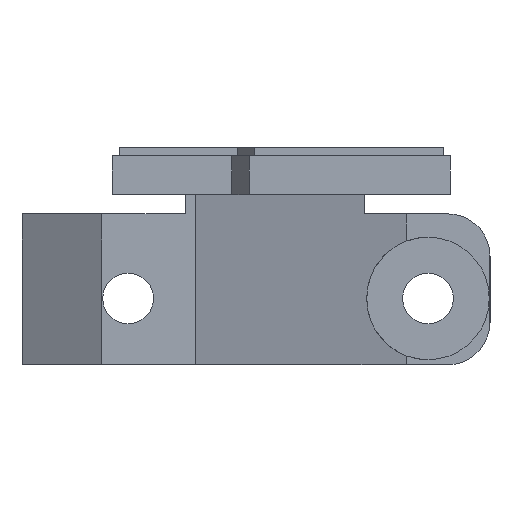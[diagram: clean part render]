
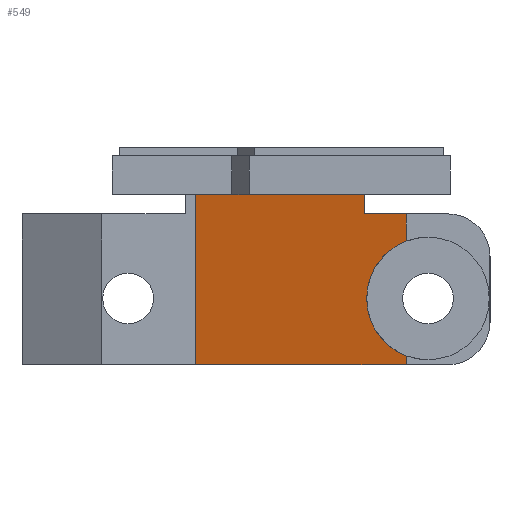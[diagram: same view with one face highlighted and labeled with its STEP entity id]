
A CAD part, left-side view. The second image highlights one B-rep face of the part: STEP entity #549.
In plain terms, the highlighted planar face has unit normal (-0.962, 0.274, 0).
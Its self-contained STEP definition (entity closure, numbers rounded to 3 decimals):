
#7 = VERTEX_POINT ( 'NONE', #1673 ) ;
#152 = VERTEX_POINT ( 'NONE', #3104 ) ;
#153 = EDGE_CURVE ( 'NONE', #7, #152, #3106, .T. ) ;
#414 = VERTEX_POINT ( 'NONE', #3665 ) ;
#431 = VERTEX_POINT ( 'NONE', #3571 ) ;
#471 = EDGE_CURVE ( 'NONE', #431, #414, #3687, .T. ) ;
#499 = EDGE_CURVE ( 'NONE', #632, #630, #3816, .T. ) ;
#510 = ORIENTED_EDGE ( 'NONE', *, *, #581, .F. ) ;
#538 = ORIENTED_EDGE ( 'NONE', *, *, #657, .T. ) ;
#549 = ADVANCED_FACE ( 'NONE', ( #3768 ), #3769, .T. ) ;
#550 = EDGE_LOOP ( 'NONE', ( #625, #629, #628, #626, #510, #631, #538, #665 ) ) ;
#578 = EDGE_CURVE ( 'NONE', #431, #7, #3794, .T. ) ;
#580 = VERTEX_POINT ( 'NONE', #3884 ) ;
#581 = EDGE_CURVE ( 'NONE', #630, #414, #3787, .T. ) ;
#625 = ORIENTED_EDGE ( 'NONE', *, *, #627, .F. ) ;
#626 = ORIENTED_EDGE ( 'NONE', *, *, #471, .T. ) ;
#627 = EDGE_CURVE ( 'NONE', #152, #580, #3998, .T. ) ;
#628 = ORIENTED_EDGE ( 'NONE', *, *, #578, .F. ) ;
#629 = ORIENTED_EDGE ( 'NONE', *, *, #153, .F. ) ;
#630 = VERTEX_POINT ( 'NONE', #3966 ) ;
#631 = ORIENTED_EDGE ( 'NONE', *, *, #499, .F. ) ;
#632 = VERTEX_POINT ( 'NONE', #3921 ) ;
#633 = VERTEX_POINT ( 'NONE', #3977 ) ;
#657 = EDGE_CURVE ( 'NONE', #632, #633, #3923, .T. ) ;
#665 = ORIENTED_EDGE ( 'NONE', *, *, #688, .F. ) ;
#688 = EDGE_CURVE ( 'NONE', #580, #633, #4082, .T. ) ;
#1673 = CARTESIAN_POINT ( 'NONE',  ( 256.45, 186.938, -38.861 ) ) ;
#3045 = CARTESIAN_POINT ( 'NONE',  ( 258.545, 194.3, -41.687 ) ) ;
#3060 = CARTESIAN_POINT ( 'NONE',  ( 256.45, 186.938, -38.861 ) ) ;
#3071 = CARTESIAN_POINT ( 'NONE',  ( 256.45, 186.938, -52.398 ) ) ;
#3083 = CARTESIAN_POINT ( 'NONE',  ( 258.545, 194.3, -49.572 ) ) ;
#3104 = CARTESIAN_POINT ( 'NONE',  ( 256.45, 186.938, -52.398 ) ) ;
#3106 =( BOUNDED_CURVE ( )  B_SPLINE_CURVE ( 3, ( #3060, #3045, #3083, #3071 ),
 .UNSPECIFIED., .F., .T. ) 
 B_SPLINE_CURVE_WITH_KNOTS ( ( 4, 4 ),
 ( 5.079, 7.487 ),
 .UNSPECIFIED. ) 
 CURVE ( )  GEOMETRIC_REPRESENTATION_ITEM ( )  RATIONAL_B_SPLINE_CURVE ( ( 1., 0.572, 0.572, 1. ) ) 
 REPRESENTATION_ITEM ( '' )  );
#3571 = CARTESIAN_POINT ( 'NONE',  ( 256.45, 186.938, -35.615 ) ) ;
#3665 = CARTESIAN_POINT ( 'NONE',  ( 257.842, 191.83, -35.615 ) ) ;
#3686 = CARTESIAN_POINT ( 'NONE',  ( 256.45, 186.938, -35.615 ) ) ;
#3687 = LINE ( 'NONE', #3686, #3720 ) ;
#3719 = DIRECTION ( 'NONE',  ( 0.274, 0.962, 0. ) ) ;
#3720 = VECTOR ( 'NONE', #3719, 1000. ) ;
#3749 = DIRECTION ( 'NONE',  ( -0.274, -0.962, 0. ) ) ;
#3750 = DIRECTION ( 'NONE',  ( -0.962, 0.274, 0. ) ) ;
#3752 = AXIS2_PLACEMENT_3D ( 'NONE', #3761, #3750, #3749 ) ;
#3761 = CARTESIAN_POINT ( 'NONE',  ( 256.45, 186.938, -35.615 ) ) ;
#3768 = FACE_OUTER_BOUND ( 'NONE', #550, .T. ) ;
#3769 = PLANE ( 'NONE',  #3752 ) ;
#3787 = LINE ( 'NONE', #3879, #3878 ) ;
#3794 = LINE ( 'NONE', #3883, #3882 ) ;
#3808 = DIRECTION ( 'NONE',  ( -0.274, -0.962, 0. ) ) ;
#3809 = VECTOR ( 'NONE', #3808, 1000. ) ;
#3815 = CARTESIAN_POINT ( 'NONE',  ( 257.842, 191.83, -33.33 ) ) ;
#3816 = LINE ( 'NONE', #3815, #3809 ) ;
#3877 = DIRECTION ( 'NONE',  ( 0., 0., -1. ) ) ;
#3878 = VECTOR ( 'NONE', #3877, 1000. ) ;
#3879 = CARTESIAN_POINT ( 'NONE',  ( 257.842, 191.83, -33.33 ) ) ;
#3881 = DIRECTION ( 'NONE',  ( 0., 0., -1. ) ) ;
#3882 = VECTOR ( 'NONE', #3881, 1000. ) ;
#3883 = CARTESIAN_POINT ( 'NONE',  ( 256.45, 186.938, -35.615 ) ) ;
#3884 = CARTESIAN_POINT ( 'NONE',  ( 256.45, 186.938, -53.48 ) ) ;
#3921 = CARTESIAN_POINT ( 'NONE',  ( 263.53, 211.816, -33.33 ) ) ;
#3923 = LINE ( 'NONE', #3996, #3995 ) ;
#3966 = CARTESIAN_POINT ( 'NONE',  ( 257.842, 191.83, -33.33 ) ) ;
#3967 = VECTOR ( 'NONE', #4020, 1000. ) ;
#3977 = CARTESIAN_POINT ( 'NONE',  ( 263.53, 211.816, -53.48 ) ) ;
#3994 = DIRECTION ( 'NONE',  ( 0., 0., -1. ) ) ;
#3995 = VECTOR ( 'NONE', #3994, 1000. ) ;
#3996 = CARTESIAN_POINT ( 'NONE',  ( 263.53, 211.816, -35.615 ) ) ;
#3998 = LINE ( 'NONE', #4021, #3967 ) ;
#4020 = DIRECTION ( 'NONE',  ( 0., 0., -1. ) ) ;
#4021 = CARTESIAN_POINT ( 'NONE',  ( 256.45, 186.938, -35.615 ) ) ;
#4067 = DIRECTION ( 'NONE',  ( 0.274, 0.962, 0. ) ) ;
#4068 = VECTOR ( 'NONE', #4067, 1000. ) ;
#4081 = CARTESIAN_POINT ( 'NONE',  ( 256.45, 186.938, -53.48 ) ) ;
#4082 = LINE ( 'NONE', #4081, #4068 ) ;
